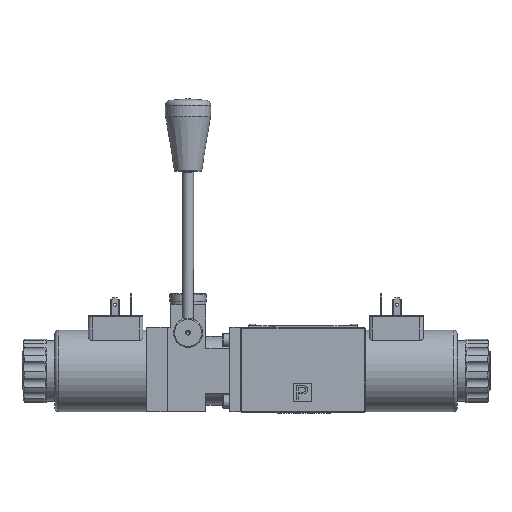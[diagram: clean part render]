
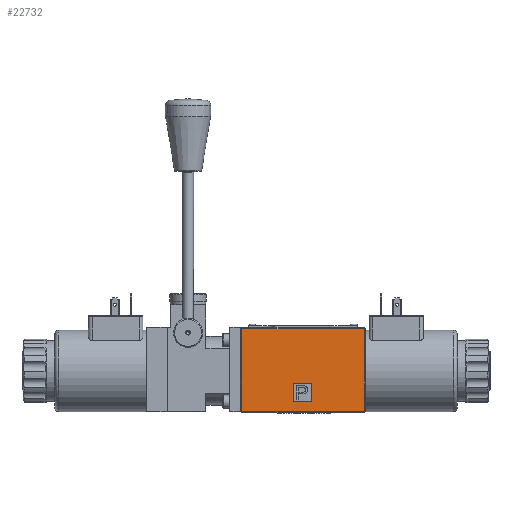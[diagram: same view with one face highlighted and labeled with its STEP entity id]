
A CAD part, top view. The second image highlights one B-rep face of the part: STEP entity #22732.
In plain terms, the highlighted planar face has unit normal (0, 0, 1).
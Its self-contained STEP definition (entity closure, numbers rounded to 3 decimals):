
#2489=PLANE('',#27490);
#4732=EDGE_LOOP('',(#9098,#9099,#9100,#9101));
#4733=EDGE_LOOP('',(#9102,#9103,#9104,#9105));
#9098=ORIENTED_EDGE('',*,*,#14276,.T.);
#9099=ORIENTED_EDGE('',*,*,#14277,.T.);
#9100=ORIENTED_EDGE('',*,*,#14278,.T.);
#9101=ORIENTED_EDGE('',*,*,#14279,.T.);
#9102=ORIENTED_EDGE('',*,*,#14280,.T.);
#9103=ORIENTED_EDGE('',*,*,#14281,.T.);
#9104=ORIENTED_EDGE('',*,*,#14282,.T.);
#9105=ORIENTED_EDGE('',*,*,#14283,.T.);
#14276=EDGE_CURVE('',#25509,#25510,#17443,.T.);
#14277=EDGE_CURVE('',#25510,#25511,#17444,.T.);
#14278=EDGE_CURVE('',#25511,#25512,#17445,.T.);
#14279=EDGE_CURVE('',#25512,#25509,#17446,.T.);
#14280=EDGE_CURVE('',#25513,#25514,#17447,.T.);
#14281=EDGE_CURVE('',#25514,#25515,#17448,.T.);
#14282=EDGE_CURVE('',#25515,#25516,#17449,.T.);
#14283=EDGE_CURVE('',#25516,#25513,#17450,.T.);
#17443=LINE('',#45895,#19645);
#17444=LINE('',#45898,#19646);
#17445=LINE('',#45900,#19647);
#17446=LINE('',#45902,#19648);
#17447=LINE('',#45903,#19649);
#17448=LINE('',#45906,#19650);
#17449=LINE('',#45908,#19651);
#17450=LINE('',#45910,#19652);
#19645=VECTOR('',#31811,1.);
#19646=VECTOR('',#31812,1.);
#19647=VECTOR('',#31813,1.);
#19648=VECTOR('',#31814,1.);
#19649=VECTOR('',#31815,1.);
#19650=VECTOR('',#31816,1.);
#19651=VECTOR('',#31817,1.);
#19652=VECTOR('',#31818,1.);
#22732=ADVANCED_FACE('',(#23801,#23802),#2489,.T.);
#23801=FACE_BOUND('',#4732,.T.);
#23802=FACE_BOUND('',#4733,.T.);
#25509=VERTEX_POINT('',#45896);
#25510=VERTEX_POINT('',#45897);
#25511=VERTEX_POINT('',#45899);
#25512=VERTEX_POINT('',#45901);
#25513=VERTEX_POINT('',#45904);
#25514=VERTEX_POINT('',#45905);
#25515=VERTEX_POINT('',#45907);
#25516=VERTEX_POINT('',#45909);
#27490=AXIS2_PLACEMENT_3D('',#45911,#31819,#31820);
#31811=DIRECTION('',(0.,-1.,0.));
#31812=DIRECTION('',(1.,0.,0.));
#31813=DIRECTION('',(0.,1.,0.));
#31814=DIRECTION('',(-1.,0.,0.));
#31815=DIRECTION('',(0.,1.,0.));
#31816=DIRECTION('',(1.,0.,0.));
#31817=DIRECTION('',(0.,-1.,0.));
#31818=DIRECTION('',(-1.,0.,0.));
#31819=DIRECTION('',(0.,0.,1.));
#31820=DIRECTION('',(-1.,0.,0.));
#45895=CARTESIAN_POINT('',(106.926,172.261,22.));
#45896=CARTESIAN_POINT('',(106.926,195.061,22.));
#45897=CARTESIAN_POINT('',(106.926,149.461,22.));
#45898=CARTESIAN_POINT('',(140.726,149.461,22.));
#45899=CARTESIAN_POINT('',(174.526,149.461,22.));
#45900=CARTESIAN_POINT('',(174.526,195.761,22.));
#45901=CARTESIAN_POINT('',(174.526,195.061,22.));
#45902=CARTESIAN_POINT('',(106.226,195.061,22.));
#45903=CARTESIAN_POINT('',(135.226,154.765,22.));
#45904=CARTESIAN_POINT('',(135.226,154.765,22.));
#45905=CARTESIAN_POINT('',(135.226,164.765,22.));
#45906=CARTESIAN_POINT('',(135.226,164.765,22.));
#45907=CARTESIAN_POINT('',(145.226,164.765,22.));
#45908=CARTESIAN_POINT('',(145.226,164.765,22.));
#45909=CARTESIAN_POINT('',(145.226,154.765,22.));
#45910=CARTESIAN_POINT('',(145.226,154.765,22.));
#45911=CARTESIAN_POINT('',(140.726,172.261,22.));
